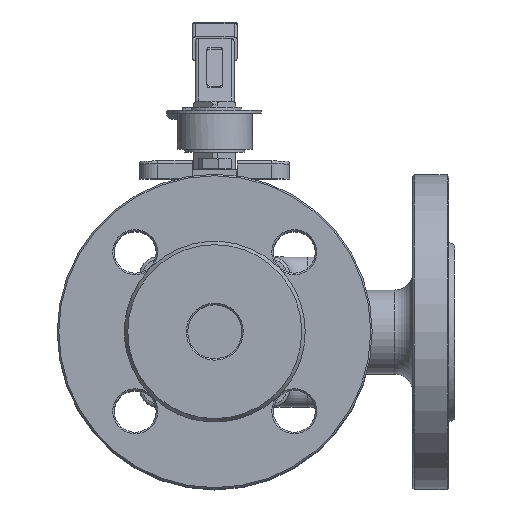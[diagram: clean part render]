
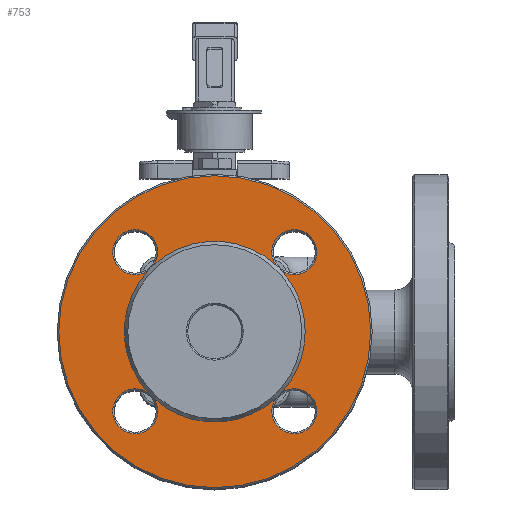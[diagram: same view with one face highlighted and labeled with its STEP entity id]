
A CAD part, top view. The second image highlights one B-rep face of the part: STEP entity #753.
In plain terms, the highlighted planar face has unit normal (0, 0, 1).
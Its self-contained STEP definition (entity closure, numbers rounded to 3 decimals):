
#753=ADVANCED_FACE('',(#6136,#6138),#6140,.T.);
#6136=FACE_BOUND('',#6137,.T.);
#6137=EDGE_LOOP('',(#14753));
#6138=FACE_BOUND('',#6139,.T.);
#6139=EDGE_LOOP('',(#14754,#14755,#14756,#14757,#14758,#14759,#14760,#14761,#14762,
#14763,#14764,#14765,#14766));
#6140=PLANE('',#6141);
#6141=AXIS2_PLACEMENT_3D('',#6142,#6143,#6144);
#6142=CARTESIAN_POINT('',(0.,0.,78.));
#6143=DIRECTION('',(0.,0.,1.));
#6144=DIRECTION('',(1.,0.,0.));
#14753=ORIENTED_EDGE('',*,*,#19001,.F.);
#14754=ORIENTED_EDGE('',*,*,#18961,.F.);
#14755=ORIENTED_EDGE('',*,*,#19005,.F.);
#14756=ORIENTED_EDGE('',*,*,#18950,.F.);
#14757=ORIENTED_EDGE('',*,*,#18952,.F.);
#14758=ORIENTED_EDGE('',*,*,#19004,.F.);
#14759=ORIENTED_EDGE('',*,*,#18953,.F.);
#14760=ORIENTED_EDGE('',*,*,#18955,.F.);
#14761=ORIENTED_EDGE('',*,*,#19003,.F.);
#14762=ORIENTED_EDGE('',*,*,#18956,.F.);
#14763=ORIENTED_EDGE('',*,*,#18958,.F.);
#14764=ORIENTED_EDGE('',*,*,#19002,.F.);
#14765=ORIENTED_EDGE('',*,*,#19006,.F.);
#14766=ORIENTED_EDGE('',*,*,#18959,.F.);
#18950=EDGE_CURVE('',#21286,#21287,#21288,.T.);
#18952=EDGE_CURVE('',#21289,#21286,#21291,.T.);
#18953=EDGE_CURVE('',#21292,#21293,#21294,.T.);
#18955=EDGE_CURVE('',#21295,#21292,#21297,.T.);
#18956=EDGE_CURVE('',#21298,#21299,#21300,.T.);
#18958=EDGE_CURVE('',#21301,#21298,#21303,.T.);
#18959=EDGE_CURVE('',#21304,#21305,#21306,.T.);
#18961=EDGE_CURVE('',#21307,#21304,#21309,.T.);
#19001=EDGE_CURVE('',#21374,#21374,#21375,.T.);
#19002=EDGE_CURVE('',#21376,#21301,#21377,.T.);
#19003=EDGE_CURVE('',#21299,#21295,#21378,.T.);
#19004=EDGE_CURVE('',#21293,#21289,#21379,.T.);
#19005=EDGE_CURVE('',#21287,#21307,#21380,.T.);
#19006=EDGE_CURVE('',#21305,#21376,#21381,.T.);
#21286=VERTEX_POINT('',#26537);
#21287=VERTEX_POINT('',#26538);
#21288=CIRCLE('',#26539,7.5);
#21289=VERTEX_POINT('',#26543);
#21291=CIRCLE('',#26608,7.5);
#21292=VERTEX_POINT('',#26612);
#21293=VERTEX_POINT('',#26613);
#21294=CIRCLE('',#26614,7.5);
#21295=VERTEX_POINT('',#26618);
#21297=CIRCLE('',#26683,7.5);
#21298=VERTEX_POINT('',#26687);
#21299=VERTEX_POINT('',#26688);
#21300=CIRCLE('',#26689,7.5);
#21301=VERTEX_POINT('',#26693);
#21303=CIRCLE('',#26758,7.5);
#21304=VERTEX_POINT('',#26762);
#21305=VERTEX_POINT('',#26763);
#21306=CIRCLE('',#26764,7.5);
#21307=VERTEX_POINT('',#26768);
#21309=CIRCLE('',#26833,7.5);
#21374=VERTEX_POINT('',#27008);
#21375=CIRCLE('',#27009,52.);
#21376=VERTEX_POINT('',#27013);
#21377=CIRCLE('',#27014,30.155);
#21378=CIRCLE('',#27018,30.155);
#21379=CIRCLE('',#27022,30.155);
#21380=CIRCLE('',#27026,30.155);
#21381=CIRCLE('',#27030,30.155);
#26537=CARTESIAN_POINT('',(-19.017,-26.517,78.));
#26538=CARTESIAN_POINT('',(-20.34,-22.262,78.));
#26539=AXIS2_PLACEMENT_3D('',#26540,#26541,#26542);
#26540=CARTESIAN_POINT('',(-26.517,-26.517,78.));
#26541=DIRECTION('',(0.,0.,1.));
#26542=DIRECTION('',(1.,0.,0.));
#26543=CARTESIAN_POINT('',(-22.262,-20.34,78.));
#26608=AXIS2_PLACEMENT_3D('',#26609,#26610,#26611);
#26609=CARTESIAN_POINT('',(-26.517,-26.517,78.));
#26610=DIRECTION('',(0.,0.,1.));
#26611=DIRECTION('',(0.567,0.823,0.));
#26612=CARTESIAN_POINT('',(-19.017,26.517,78.));
#26613=CARTESIAN_POINT('',(-22.262,20.34,78.));
#26614=AXIS2_PLACEMENT_3D('',#26615,#26616,#26617);
#26615=CARTESIAN_POINT('',(-26.517,26.517,78.));
#26616=DIRECTION('',(0.,0.,1.));
#26617=DIRECTION('',(1.,0.,0.));
#26618=CARTESIAN_POINT('',(-20.34,22.262,78.));
#26683=AXIS2_PLACEMENT_3D('',#26684,#26685,#26686);
#26684=CARTESIAN_POINT('',(-26.517,26.517,78.));
#26685=DIRECTION('',(0.,0.,1.));
#26686=DIRECTION('',(0.823,-0.567,0.));
#26687=CARTESIAN_POINT('',(34.017,26.517,78.));
#26688=CARTESIAN_POINT('',(20.34,22.262,78.));
#26689=AXIS2_PLACEMENT_3D('',#26690,#26691,#26692);
#26690=CARTESIAN_POINT('',(26.517,26.517,78.));
#26691=DIRECTION('',(0.,0.,1.));
#26692=DIRECTION('',(1.,0.,0.));
#26693=CARTESIAN_POINT('',(22.262,20.34,78.));
#26758=AXIS2_PLACEMENT_3D('',#26759,#26760,#26761);
#26759=CARTESIAN_POINT('',(26.517,26.517,78.));
#26760=DIRECTION('',(0.,0.,1.));
#26761=DIRECTION('',(-0.567,-0.823,0.));
#26762=CARTESIAN_POINT('',(34.017,-26.517,78.));
#26763=CARTESIAN_POINT('',(22.262,-20.34,78.));
#26764=AXIS2_PLACEMENT_3D('',#26765,#26766,#26767);
#26765=CARTESIAN_POINT('',(26.517,-26.517,78.));
#26766=DIRECTION('',(0.,0.,1.));
#26767=DIRECTION('',(1.,0.,0.));
#26768=CARTESIAN_POINT('',(20.34,-22.262,78.));
#26833=AXIS2_PLACEMENT_3D('',#26834,#26835,#26836);
#26834=CARTESIAN_POINT('',(26.517,-26.517,78.));
#26835=DIRECTION('',(0.,0.,1.));
#26836=DIRECTION('',(-0.823,0.567,0.));
#27008=CARTESIAN_POINT('',(52.,0.,78.));
#27009=AXIS2_PLACEMENT_3D('',#27010,#27011,#27012);
#27010=CARTESIAN_POINT('',(0.,0.,78.));
#27011=DIRECTION('',(0.,0.,-1.));
#27012=DIRECTION('',(1.,0.,0.));
#27013=CARTESIAN_POINT('',(30.155,0.,78.));
#27014=AXIS2_PLACEMENT_3D('',#27015,#27016,#27017);
#27015=CARTESIAN_POINT('',(0.,0.,78.));
#27016=DIRECTION('',(0.,0.,1.));
#27017=DIRECTION('',(1.,0.,0.));
#27018=AXIS2_PLACEMENT_3D('',#27019,#27020,#27021);
#27019=CARTESIAN_POINT('',(0.,0.,78.));
#27020=DIRECTION('',(0.,0.,1.));
#27021=DIRECTION('',(0.675,0.738,0.));
#27022=AXIS2_PLACEMENT_3D('',#27023,#27024,#27025);
#27023=CARTESIAN_POINT('',(0.,0.,78.));
#27024=DIRECTION('',(0.,0.,1.));
#27025=DIRECTION('',(-0.738,0.675,0.));
#27026=AXIS2_PLACEMENT_3D('',#27027,#27028,#27029);
#27027=CARTESIAN_POINT('',(0.,0.,78.));
#27028=DIRECTION('',(0.,0.,1.));
#27029=DIRECTION('',(-0.675,-0.738,0.));
#27030=AXIS2_PLACEMENT_3D('',#27031,#27032,#27033);
#27031=CARTESIAN_POINT('',(0.,0.,78.));
#27032=DIRECTION('',(0.,0.,1.));
#27033=DIRECTION('',(0.738,-0.675,0.));
